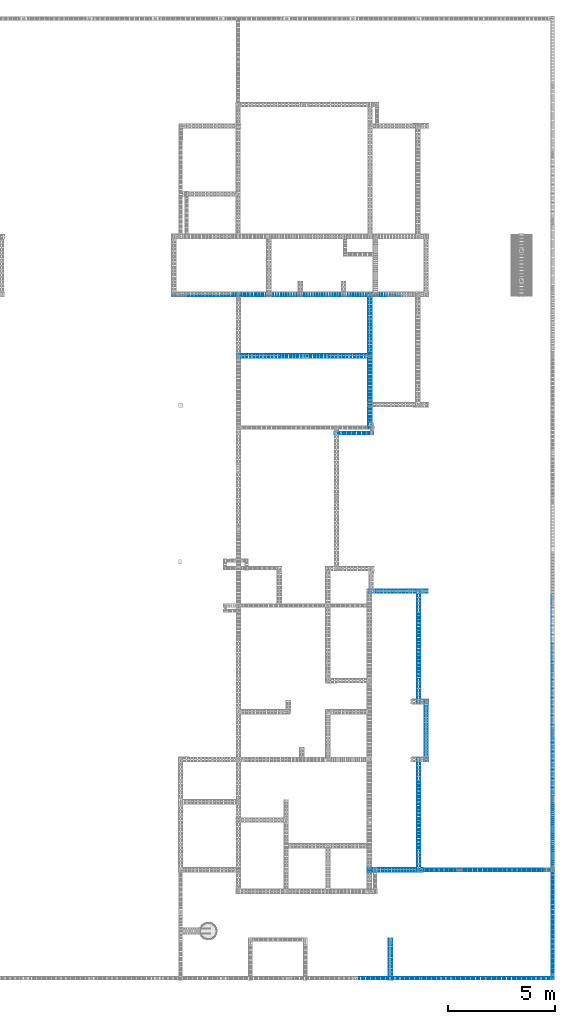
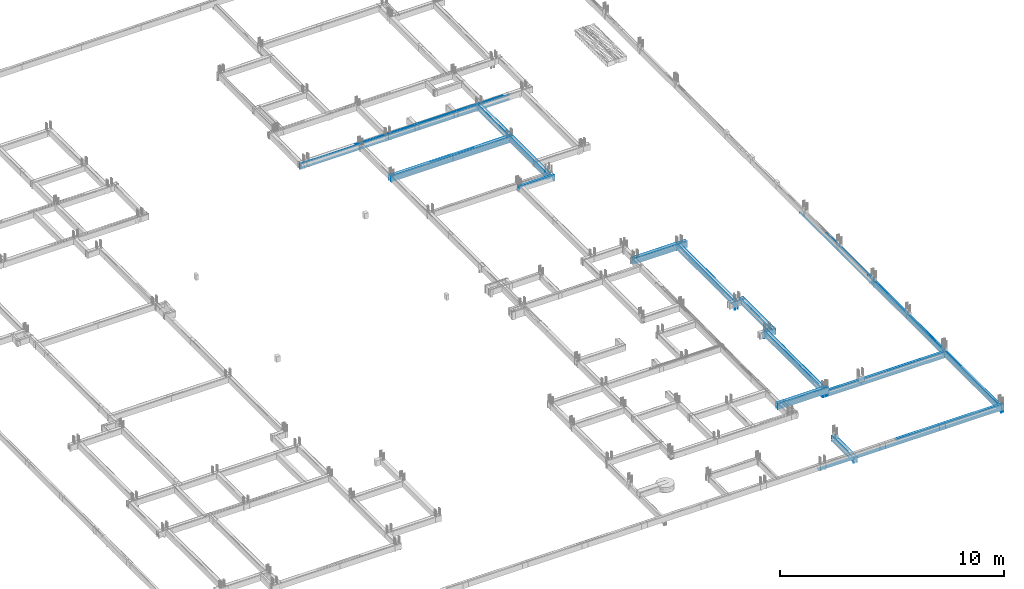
# One storey, part 12 of 150: 59 reinforcing bars.
"""IFC4 building model written with IfcOpenShell, lengths in centimetres."""

from ifc_helpers import new_model, entity, si_unit, derived_unit, frame, origin_with_axes, place, context, project, spatial, element, save


model = new_model("IFC4")

# Units and contexts
model_context = context("Model", 3, precision=1e-05, world=origin_with_axes(), identifier="Body")
ifc_project = project(units=[si_unit("LENGTHUNIT", "METRE", prefix="CENTI"), si_unit("VOLUMEUNIT", "CUBIC_METRE"), si_unit("AREAUNIT", "SQUARE_METRE"), si_unit("POWERUNIT", "WATT"), si_unit("LUMINOUSFLUXUNIT", "LUMEN"), si_unit("ELECTRICCURRENTUNIT", "AMPERE"), si_unit("PRESSUREUNIT", "PASCAL", prefix="KILO"), si_unit("MASSUNIT", "GRAM", prefix="KILO"), si_unit("PLANEANGLEUNIT", "RADIAN"), derived_unit("VOLUMETRICFLOWRATEUNIT", [(si_unit("LENGTHUNIT", "METRE"), 3), (si_unit("TIMEUNIT", "SECOND"), -1)])], contexts=[model_context])

# Site, building, storey
site_placement = place(None, frame((-4000.0, 0.0, 0.0), z_axis=(0.0, 0.0, 1.0), x_axis=(1.0, 0.0, 0.0)))
site = spatial("IfcSite", under=ifc_project, at=site_placement, Name="PADRÃO")
building_placement = place(site_placement, frame((0.0, 0.0, -14.0)))
building = spatial("IfcBuilding", under=site, at=building_placement, Name="CRECHE PRÉ-ESCOLA TIPO 2")
placement = place(building_placement, origin_with_axes())
storey_placement = place(placement, frame((0.0, 0.0, 30.0), z_axis=(0.0, 0.0, 1.0), x_axis=(1.0, 0.0, 0.0)))
storey = spatial("IfcBuildingStorey", under=building, at=storey_placement, Name="VIGA BALDRAME", CompositionType="ELEMENT", Elevation=16.0)

# Reinforcing bars
reinforcing_bar_1_placement = place(storey_placement, frame((2753.13707094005, 3193.145, -11.5851398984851), z_axis=(0.0, 0.0, 1.0), x_axis=(1.0, 0.0, 0.0)))
element("IfcReinforcingBar", 1, at=reinforcing_bar_1_placement, inside=storey, Name="V114 - Longitudinal inferior", BarLength=0.0, CrossSectionArea=0.000122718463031, NominalDiameter=1.25, PredefinedType="MAIN", context=model_context, shape_type="AdvancedSweptSolid", body=[
    entity("IfcSweptDiskSolid", entity("IfcCompositeCurve", [entity("IfcCompositeCurveSegment", "CONTINUOUS", True, entity("IfcPolyline", [entity("IfcCartesianPoint", [-535.982070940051, 0.0, 0.0]), entity("IfcCartesianPoint", [-535.982070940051, 0.0, -15.2898601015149])])), entity("IfcCompositeCurveSegment", "CONTINUOUS", True, entity("IfcPolyline", [entity("IfcCartesianPoint", [-535.982070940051, 0.0, -15.2898601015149]), entity("IfcCartesianPoint", [536.612930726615, 0.0, -15.2898601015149])]))], False), 0.625),
])
reinforcing_bar_2_placement = place(storey_placement, frame((2903.25, 3200.02, -26.25), z_axis=(0.0, 0.0, 1.0), x_axis=(1.0, 0.0, 0.0)))
element("IfcReinforcingBar", 2, at=reinforcing_bar_2_placement, inside=storey, Name="V114 - Longitudinal inferior", BarLength=0.0, CrossSectionArea=0.000122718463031, NominalDiameter=1.25, PredefinedType="MAIN", context=model_context, shape_type="AdvancedSweptSolid", body=[
    entity("IfcSweptDiskSolid", entity("IfcCompositeCurve", [entity("IfcCompositeCurveSegment", "CONTINUOUS", True, entity("IfcPolyline", [entity("IfcCartesianPoint", [-240.25, 0.0, -0.625]), entity("IfcCartesianPoint", [240.25, 0.0, -0.625])]))], False), 0.625),
])
for number, where, z_axis, x_axis, name in (
    (3, (2884.02, 3197.68666666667, -2.5), (0.0, 0.0, 1.0), (1.0, 0.0, 0.0), "V114 - Longitudinal superior"),
    (4, (2884.02, 3202.35333333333, -2.5), (0.0, 0.0, 1.0), (1.0, 0.0, 0.0), "V114 - Longitudinal superior"),
):
    element("IfcReinforcingBar", number, at=place(storey_placement, frame(where, z_axis=z_axis, x_axis=x_axis)), inside=storey, Name=name, BarLength=0.0, CrossSectionArea=7.853981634e-05, NominalDiameter=1.0, PredefinedType="MAIN", context=model_context, shape_type="AdvancedSweptSolid", body=[
        entity("IfcSweptDiskSolid", entity("IfcCompositeCurve", [entity("IfcCompositeCurveSegment", "CONTINUOUS", True, entity("IfcPolyline", [entity("IfcCartesianPoint", [-380.25, 0.0, -0.5]), entity("IfcCartesianPoint", [380.25, 0.0, -0.5])]))], False), 0.5),
    ])
reinforcing_bar_3_placement = place(storey_placement, frame((2753.13765691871, 3193.02, -2.49531217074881), z_axis=(0.0, 0.0, 1.0), x_axis=(1.0, 0.0, 0.0)))
element("IfcReinforcingBar", 5, at=reinforcing_bar_3_placement, inside=storey, Name="V114 - Longitudinal superior", BarLength=0.0, CrossSectionArea=7.853981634e-05, NominalDiameter=1.0, PredefinedType="MAIN", context=model_context, shape_type="AdvancedSweptSolid", body=[
    entity("IfcSweptDiskSolid", entity("IfcCompositeCurve", [entity("IfcCompositeCurveSegment", "CONTINUOUS", True, entity("IfcPolyline", [entity("IfcCartesianPoint", [-536.107656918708, 0.0, -26.5046878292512]), entity("IfcCartesianPoint", [-536.107656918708, 0.0, -0.504687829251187])])), entity("IfcCompositeCurveSegment", "CONTINUOUS", True, entity("IfcPolyline", [entity("IfcCartesianPoint", [-536.107656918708, 0.0, -0.504687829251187]), entity("IfcCartesianPoint", [536.612344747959, 0.0, -0.504687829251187])]))], False), 0.5),
])
for number, where, z_axis, x_axis, name in (
    (6, (2831.0, 2905.52, -26.5), (0.0, 0.0, 1.0), (1.0, 0.0, 0.0), "V116 - Longitudinal inferior"),
    (7, (2831.0, 2919.52, -26.5), (0.0, 0.0, 1.0), (1.0, 0.0, 0.0), "V116 - Longitudinal inferior"),
):
    element("IfcReinforcingBar", number, at=place(storey_placement, frame(where, z_axis=z_axis, x_axis=x_axis)), inside=storey, Name=name, BarLength=0.0, CrossSectionArea=7.853981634e-05, NominalDiameter=1.0, PredefinedType="MAIN", context=model_context, shape_type="AdvancedSweptSolid", body=[
        entity("IfcSweptDiskSolid", entity("IfcCompositeCurve", [entity("IfcCompositeCurveSegment", "CONTINUOUS", True, entity("IfcPolyline", [entity("IfcCartesianPoint", [-312.5, 0.0, -0.5]), entity("IfcCartesianPoint", [312.5, 0.0, -0.5])]))], False), 0.5),
    ])
for number, where, z_axis, x_axis, name in (
    (8, (2831.0, 2905.42, -2.49624973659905), (0.0, 0.0, 1.0), (1.0, 0.0, 0.0), "V116 - Longitudinal superior"),
    (9, (2831.0, 2919.62, -2.49624973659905), (0.0, 0.0, 1.0), (1.0, 0.0, 0.0), "V116 - Longitudinal superior"),
):
    element("IfcReinforcingBar", number, at=place(storey_placement, frame(where, z_axis=z_axis, x_axis=x_axis)), inside=storey, Name=name, BarLength=0.0, CrossSectionArea=5.0265482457e-05, NominalDiameter=0.8, PredefinedType="MAIN", context=model_context, shape_type="AdvancedSweptSolid", body=[
        entity("IfcSweptDiskSolid", entity("IfcCompositeCurve", [entity("IfcCompositeCurveSegment", "CONTINUOUS", True, entity("IfcPolyline", [entity("IfcCartesianPoint", [-312.1, 0.0, -24.2941566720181]), entity("IfcCartesianPoint", [-312.1, 0.0, -0.403750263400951])])), entity("IfcCompositeCurveSegment", "CONTINUOUS", True, entity("IfcPolyline", [entity("IfcCartesianPoint", [-312.1, 0.0, -0.403750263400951]), entity("IfcCartesianPoint", [312.1, 0.0, -0.403750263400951])])), entity("IfcCompositeCurveSegment", "CONTINUOUS", True, entity("IfcPolyline", [entity("IfcCartesianPoint", [312.1, 0.0, -0.403750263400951]), entity("IfcCartesianPoint", [312.1, 0.0, -10.403750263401])]))], False), 0.4),
    ])
reinforcing_bar_4_placement = place(storey_placement, frame((2834.0, 2912.52, -2.5), z_axis=(0.0, 0.0, 1.0), x_axis=(1.0, 0.0, 0.0)))
element("IfcReinforcingBar", 10, at=reinforcing_bar_4_placement, inside=storey, Name="V116 - Longitudinal superior", BarLength=0.0, CrossSectionArea=5.0265482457e-05, NominalDiameter=0.8, PredefinedType="MAIN", context=model_context, shape_type="AdvancedSweptSolid", body=[
    entity("IfcSweptDiskSolid", entity("IfcCompositeCurve", [entity("IfcCompositeCurveSegment", "CONTINUOUS", True, entity("IfcPolyline", [entity("IfcCartesianPoint", [-110.0, 0.0, -0.4]), entity("IfcCartesianPoint", [110.0, 0.0, -0.4])]))], False), 0.4),
])
for number, where, z_axis, x_axis, name in (
    (11, (3063.76, 2557.62, -2.49624973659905), (0.0, 0.0, 1.0), (1.0, 0.0, 0.0), "V123 - Longitudinal superior"),
    (12, (3063.76, 2549.42, -2.49624973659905), (0.0, 0.0, 1.0), (1.0, 0.0, 0.0), "V123 - Longitudinal superior"),
):
    element("IfcReinforcingBar", number, at=place(storey_placement, frame(where, z_axis=z_axis, x_axis=x_axis)), inside=storey, Name=name, BarLength=0.0, CrossSectionArea=5.0265482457e-05, NominalDiameter=0.8, PredefinedType="MAIN", context=model_context, shape_type="AdvancedSweptSolid", body=[
        entity("IfcSweptDiskSolid", entity("IfcCompositeCurve", [entity("IfcCompositeCurveSegment", "CONTINUOUS", True, entity("IfcPolyline", [entity("IfcCartesianPoint", [-88.86, 0.0, -10.403750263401]), entity("IfcCartesianPoint", [-88.86, 0.0, -0.403750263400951])])), entity("IfcCompositeCurveSegment", "CONTINUOUS", True, entity("IfcPolyline", [entity("IfcCartesianPoint", [-88.86, 0.0, -0.403750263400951]), entity("IfcCartesianPoint", [88.86, 0.0, -0.403750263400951])])), entity("IfcCompositeCurveSegment", "CONTINUOUS", True, entity("IfcPolyline", [entity("IfcCartesianPoint", [88.86, 0.0, -0.403750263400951]), entity("IfcCartesianPoint", [88.86, 0.0, -26.403750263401])]))], False), 0.4),
    ])
for number, where, z_axis, x_axis, name in (
    (13, (3271.0, 1822.12, -26.7), (0.0, 0.0, 1.0), (1.0, 0.0, 0.0), "V131 - Longitudinal inferior"),
    (14, (3271.0, 1807.92, -26.7), (0.0, 0.0, 1.0), (1.0, 0.0, 0.0), "V131 - Longitudinal inferior"),
):
    element("IfcReinforcingBar", number, at=place(storey_placement, frame(where, z_axis=z_axis, x_axis=x_axis)), inside=storey, Name=name, BarLength=0.0, CrossSectionArea=5.0265482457e-05, NominalDiameter=0.8, PredefinedType="MAIN", context=model_context, shape_type="AdvancedSweptSolid", body=[
        entity("IfcSweptDiskSolid", entity("IfcCompositeCurve", [entity("IfcCompositeCurveSegment", "CONTINUOUS", True, entity("IfcPolyline", [entity("IfcCartesianPoint", [-136.5, 0.0, -0.4]), entity("IfcCartesianPoint", [136.5, 0.0, -0.4])]))], False), 0.4),
    ])
for number, where, z_axis, x_axis, name in (
    (15, (3271.0, 1807.92, -2.49624973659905), (0.0, 0.0, 1.0), (1.0, 0.0, 0.0), "V131 - Longitudinal superior"),
    (16, (3271.0, 1822.12, -2.49624973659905), (0.0, 0.0, 1.0), (1.0, 0.0, 0.0), "V131 - Longitudinal superior"),
):
    element("IfcReinforcingBar", number, at=place(storey_placement, frame(where, z_axis=z_axis, x_axis=x_axis)), inside=storey, Name=name, BarLength=0.0, CrossSectionArea=5.0265482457e-05, NominalDiameter=0.8, PredefinedType="MAIN", context=model_context, shape_type="AdvancedSweptSolid", body=[
        entity("IfcSweptDiskSolid", entity("IfcCompositeCurve", [entity("IfcCompositeCurveSegment", "CONTINUOUS", True, entity("IfcPolyline", [entity("IfcCartesianPoint", [-136.1, 0.0, -10.403750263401]), entity("IfcCartesianPoint", [-136.1, 0.0, -0.403750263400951])])), entity("IfcCompositeCurveSegment", "CONTINUOUS", True, entity("IfcPolyline", [entity("IfcCartesianPoint", [-136.1, 0.0, -0.403750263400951]), entity("IfcCartesianPoint", [136.1, 0.0, -0.403750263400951])])), entity("IfcCompositeCurveSegment", "CONTINUOUS", True, entity("IfcPolyline", [entity("IfcCartesianPoint", [136.1, 0.0, -0.403750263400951]), entity("IfcCartesianPoint", [136.1, 0.0, -26.403750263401])]))], False), 0.4),
    ])
for number, where, z_axis, x_axis, name in (
    (17, (3256.75, 507.91, -26.7), (0.0, 0.0, 1.0), (1.0, 0.0, 0.0), "V152 - Longitudinal inferior"),
    (18, (3256.75, 522.11, -26.7), (0.0, 0.0, 1.0), (1.0, 0.0, 0.0), "V152 - Longitudinal inferior"),
):
    element("IfcReinforcingBar", number, at=place(storey_placement, frame(where, z_axis=z_axis, x_axis=x_axis)), inside=storey, Name=name, BarLength=0.0, CrossSectionArea=5.0265482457e-05, NominalDiameter=0.8, PredefinedType="MAIN", context=model_context, shape_type="AdvancedSweptSolid", body=[
        entity("IfcSweptDiskSolid", entity("IfcCompositeCurve", [entity("IfcCompositeCurveSegment", "CONTINUOUS", True, entity("IfcPolyline", [entity("IfcCartesianPoint", [-128.75, 0.0, -0.4]), entity("IfcCartesianPoint", [128.75, 0.0, -0.4])]))], False), 0.4),
    ])
for number, where, z_axis, x_axis, name in (
    (19, (3256.75, 508.135, -2.49414021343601), (0.0, 0.0, 1.0), (1.0, 0.0, 0.0), "V152 - Longitudinal superior"),
    (20, (3256.75, 521.885, -2.49414021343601), (0.0, 0.0, 1.0), (1.0, 0.0, 0.0), "V152 - Longitudinal superior"),
):
    element("IfcReinforcingBar", number, at=place(storey_placement, frame(where, z_axis=z_axis, x_axis=x_axis)), inside=storey, Name=name, BarLength=0.0, CrossSectionArea=0.000122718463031, NominalDiameter=1.25, PredefinedType="MAIN", context=model_context, shape_type="AdvancedSweptSolid", body=[
        entity("IfcSweptDiskSolid", entity("IfcCompositeCurve", [entity("IfcCompositeCurveSegment", "CONTINUOUS", True, entity("IfcPolyline", [entity("IfcCartesianPoint", [-128.125, 0.0, -26.630859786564]), entity("IfcCartesianPoint", [-128.125, 0.0, -0.630859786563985])])), entity("IfcCompositeCurveSegment", "CONTINUOUS", True, entity("IfcPolyline", [entity("IfcCartesianPoint", [-128.125, 0.0, -0.630859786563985]), entity("IfcCartesianPoint", [128.125, 0.0, -0.630859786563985])])), entity("IfcCompositeCurveSegment", "CONTINUOUS", True, entity("IfcPolyline", [entity("IfcCartesianPoint", [128.125, 0.0, -0.630859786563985]), entity("IfcCartesianPoint", [128.125, 0.0, -15.005859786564])]))], False), 0.625),
    ])
for number, where, z_axis, x_axis, name in (
    (21, (3678.75234391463, 510.51, -35.0), (0.0, 0.0, 1.0), (1.0, 0.0, 0.0), "V153 - Longitudinal inferior"),
    (22, (3678.75234391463, 519.51, -35.0), (0.0, 0.0, 1.0), (1.0, 0.0, 0.0), "V153 - Longitudinal inferior"),
):
    element("IfcReinforcingBar", number, at=place(storey_placement, frame(where, z_axis=z_axis, x_axis=x_axis)), inside=storey, Name=name, BarLength=0.0, CrossSectionArea=7.853981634e-05, NominalDiameter=1.0, PredefinedType="MAIN", context=model_context, shape_type="AdvancedSweptSolid", body=[
        entity("IfcSweptDiskSolid", entity("IfcCompositeCurve", [entity("IfcCompositeCurveSegment", "CONTINUOUS", True, entity("IfcPolyline", [entity("IfcCartesianPoint", [-319.252343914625, 0.0, -12.0]), entity("IfcCartesianPoint", [318.747656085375, 0.0, -12.0])])), entity("IfcCompositeCurveSegment", "CONTINUOUS", True, entity("IfcPolyline", [entity("IfcCartesianPoint", [318.747656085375, 0.0, -12.0]), entity("IfcCartesianPoint", [318.747656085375, 0.0, 0.0])]))], False), 0.5),
    ])
for number, where, z_axis, x_axis, name in (
    (23, (3678.75, 519.51, -22.4953121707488), (0.0, 0.0, 1.0), (1.0, 0.0, 0.0), "V153 - Longitudinal superior"),
    (24, (3678.75, 510.51, -22.4953121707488), (0.0, 0.0, 1.0), (1.0, 0.0, 0.0), "V153 - Longitudinal superior"),
):
    element("IfcReinforcingBar", number, at=place(storey_placement, frame(where, z_axis=z_axis, x_axis=x_axis)), inside=storey, Name=name, BarLength=0.0, CrossSectionArea=7.853981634e-05, NominalDiameter=1.0, PredefinedType="MAIN", context=model_context, shape_type="AdvancedSweptSolid", body=[
        entity("IfcSweptDiskSolid", entity("IfcCompositeCurve", [entity("IfcCompositeCurveSegment", "CONTINUOUS", True, entity("IfcPolyline", [entity("IfcCartesianPoint", [-318.75, 0.0, -10.5046878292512]), entity("IfcCartesianPoint", [-318.75, 0.0, -0.504687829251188])])), entity("IfcCompositeCurveSegment", "CONTINUOUS", True, entity("IfcPolyline", [entity("IfcCartesianPoint", [-318.75, 0.0, -0.504687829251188]), entity("IfcCartesianPoint", [318.75, 0.0, -0.504687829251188])])), entity("IfcCompositeCurveSegment", "CONTINUOUS", True, entity("IfcPolyline", [entity("IfcCartesianPoint", [318.75, 0.0, -0.504687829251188]), entity("IfcCartesianPoint", [318.75, 0.0, -30.3154683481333])]))], False), 0.5),
    ])
for number, where, z_axis, x_axis, name in (
    (25, (3221.0, 14.0, -26.5), (0.0, 0.0, 1.0), (1.0, 0.0, 0.0), "V158 - Longitudinal inferior"),
    (26, (3221.0, 5.0, -26.5), (0.0, 0.0, 1.0), (1.0, 0.0, 0.0), "V158 - Longitudinal inferior"),
):
    element("IfcReinforcingBar", number, at=place(storey_placement, frame(where, z_axis=z_axis, x_axis=x_axis)), inside=storey, Name=name, BarLength=0.0, CrossSectionArea=7.853981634e-05, NominalDiameter=1.0, PredefinedType="MAIN", context=model_context, shape_type="AdvancedSweptSolid", body=[
        entity("IfcSweptDiskSolid", entity("IfcCompositeCurve", [entity("IfcCompositeCurveSegment", "CONTINUOUS", True, entity("IfcPolyline", [entity("IfcCartesianPoint", [-171.857300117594, 0.0, -0.5]), entity("IfcCartesianPoint", [171.857300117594, 0.0, -0.5])]))], False), 0.5),
    ])
for number, where, z_axis, x_axis, name in (
    (27, (3679.90707995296, 14.1, -26.7), (0.0, 0.0, 1.0), (1.0, 0.0, 0.0), "V158 - Longitudinal inferior"),
    (28, (3679.90707995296, 4.9, -26.7), (0.0, 0.0, 1.0), (1.0, 0.0, 0.0), "V158 - Longitudinal inferior"),
):
    element("IfcReinforcingBar", number, at=place(storey_placement, frame(where, z_axis=z_axis, x_axis=x_axis)), inside=storey, Name=name, BarLength=0.0, CrossSectionArea=5.0265482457e-05, NominalDiameter=0.8, PredefinedType="MAIN", context=model_context, shape_type="AdvancedSweptSolid", body=[
        entity("IfcSweptDiskSolid", entity("IfcCompositeCurve", [entity("IfcCompositeCurveSegment", "CONTINUOUS", True, entity("IfcPolyline", [entity("IfcCartesianPoint", [-317.092920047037, 0.0, -0.4]), entity("IfcCartesianPoint", [317.092920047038, 0.0, -0.4])]))], False), 0.4),
    ])
for number, where, z_axis, x_axis, name in (
    (29, (3723.2518751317, 4.9, -2.49624973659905), (0.0, 0.0, 1.0), (1.0, 0.0, 0.0), "V158 - Longitudinal superior"),
    (30, (3723.2518751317, 14.1, -2.49624973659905), (0.0, 0.0, 1.0), (1.0, 0.0, 0.0), "V158 - Longitudinal superior"),
):
    element("IfcReinforcingBar", number, at=place(storey_placement, frame(where, z_axis=z_axis, x_axis=x_axis)), inside=storey, Name=name, BarLength=0.0, CrossSectionArea=5.0265482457e-05, NominalDiameter=0.8, PredefinedType="MAIN", context=model_context, shape_type="AdvancedSweptSolid", body=[
        entity("IfcSweptDiskSolid", entity("IfcCompositeCurve", [entity("IfcCompositeCurveSegment", "CONTINUOUS", True, entity("IfcPolyline", [entity("IfcCartesianPoint", [-273.751875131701, 0.0, -0.403750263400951]), entity("IfcCartesianPoint", [273.348124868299, 0.0, -0.403750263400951])])), entity("IfcCompositeCurveSegment", "CONTINUOUS", True, entity("IfcPolyline", [entity("IfcCartesianPoint", [273.348124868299, 0.0, -0.403750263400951]), entity("IfcCartesianPoint", [273.348124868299, 0.0, -18.3215550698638])]))], False), 0.4),
    ])
reinforcing_bar_5_placement = place(storey_placement, frame((3131.5, 2888.02, -26.5), z_axis=(0.0, 0.0, 1.0), x_axis=(1.0, 0.0, 0.0)))
element("IfcReinforcingBar", 31, at=reinforcing_bar_5_placement, inside=storey, Name="V219 - Longitudinal inferior", BarLength=0.0, CrossSectionArea=7.853981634e-05, NominalDiameter=1.0, PredefinedType="MAIN", context=model_context, shape_type="AdvancedSweptSolid", body=[
    entity("IfcSweptDiskSolid", entity("IfcCompositeCurve", [entity("IfcCompositeCurveSegment", "CONTINUOUS", True, entity("IfcPolyline", [entity("IfcCartesianPoint", [0.0, -314.5, -0.5]), entity("IfcCartesianPoint", [0.0, 314.5, -0.5])]))], False), 0.5),
])
reinforcing_bar_6_placement = place(storey_placement, frame((3138.5, 2749.52, -26.5), z_axis=(0.0, 0.0, 1.0), x_axis=(1.0, 0.0, 0.0)))
element("IfcReinforcingBar", 32, at=reinforcing_bar_6_placement, inside=storey, Name="V219 - Longitudinal inferior", BarLength=0.0, CrossSectionArea=7.853981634e-05, NominalDiameter=1.0, PredefinedType="MAIN", context=model_context, shape_type="AdvancedSweptSolid", body=[
    entity("IfcSweptDiskSolid", entity("IfcCompositeCurve", [entity("IfcCompositeCurveSegment", "CONTINUOUS", True, entity("IfcPolyline", [entity("IfcCartesianPoint", [0.0, -176.0, -0.5]), entity("IfcCartesianPoint", [0.0, 176.0, -0.5])]))], False), 0.5),
])
reinforcing_bar_7_placement = place(storey_placement, frame((3145.5, 2888.02, -26.5), z_axis=(0.0, 0.0, 1.0), x_axis=(1.0, 0.0, 0.0)))
element("IfcReinforcingBar", 33, at=reinforcing_bar_7_placement, inside=storey, Name="V219 - Longitudinal inferior", BarLength=0.0, CrossSectionArea=7.853981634e-05, NominalDiameter=1.0, PredefinedType="MAIN", context=model_context, shape_type="AdvancedSweptSolid", body=[
    entity("IfcSweptDiskSolid", entity("IfcCompositeCurve", [entity("IfcCompositeCurveSegment", "CONTINUOUS", True, entity("IfcPolyline", [entity("IfcCartesianPoint", [0.0, -314.5, -0.5]), entity("IfcCartesianPoint", [0.0, 314.5, -0.5])]))], False), 0.5),
])
for number, where, z_axis, x_axis, name in (
    (34, (3131.5, 2888.02, -2.49531217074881), (0.0, 0.0, 1.0), (1.0, 0.0, 0.0), "V219 - Longitudinal superior"),
    (35, (3145.5, 2888.02, -2.49531217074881), (0.0, 0.0, 1.0), (1.0, 0.0, 0.0), "V219 - Longitudinal superior"),
):
    element("IfcReinforcingBar", number, at=place(storey_placement, frame(where, z_axis=z_axis, x_axis=x_axis)), inside=storey, Name=name, BarLength=0.0, CrossSectionArea=7.853981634e-05, NominalDiameter=1.0, PredefinedType="MAIN", context=model_context, shape_type="AdvancedSweptSolid", body=[
        entity("IfcSweptDiskSolid", entity("IfcCompositeCurve", [entity("IfcCompositeCurveSegment", "CONTINUOUS", True, entity("IfcPolyline", [entity("IfcCartesianPoint", [0.0, -314.0, -12.0046878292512]), entity("IfcCartesianPoint", [0.0, -314.0, -0.504687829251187])])), entity("IfcCompositeCurveSegment", "CONTINUOUS", True, entity("IfcPolyline", [entity("IfcCartesianPoint", [0.0, -314.0, -0.504687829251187]), entity("IfcCartesianPoint", [0.0, 314.0, -0.504687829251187])])), entity("IfcCompositeCurveSegment", "CONTINUOUS", True, entity("IfcPolyline", [entity("IfcCartesianPoint", [0.0, 314.0, -0.504687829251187]), entity("IfcCartesianPoint", [0.0, 314.0, -19.6170129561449])]))], False), 0.5),
    ])
for number, where, z_axis, x_axis, name in (
    (36, (3241.09, 99.75, -46.7), (0.0, 0.0, 1.0), (1.0, 0.0, 0.0), "V223 - Longitudinal inferior"),
    (37, (3226.89, 99.75, -46.7), (0.0, 0.0, 1.0), (1.0, 0.0, 0.0), "V223 - Longitudinal inferior"),
):
    element("IfcReinforcingBar", number, at=place(storey_placement, frame(where, z_axis=z_axis, x_axis=x_axis)), inside=storey, Name=name, BarLength=0.0, CrossSectionArea=5.0265482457e-05, NominalDiameter=0.8, PredefinedType="MAIN", context=model_context, shape_type="AdvancedSweptSolid", body=[
        entity("IfcSweptDiskSolid", entity("IfcCompositeCurve", [entity("IfcCompositeCurveSegment", "CONTINUOUS", True, entity("IfcPolyline", [entity("IfcCartesianPoint", [0.0, -95.75, -0.4]), entity("IfcCartesianPoint", [0.0, 95.75, -0.4])]))], False), 0.4),
    ])
for number, where, z_axis, x_axis, name in (
    (38, (3241.09, 99.75, -22.496249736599), (0.0, 0.0, 1.0), (1.0, 0.0, 0.0), "V223 - Longitudinal superior"),
    (39, (3226.89, 99.75, -22.496249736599), (0.0, 0.0, 1.0), (1.0, 0.0, 0.0), "V223 - Longitudinal superior"),
):
    element("IfcReinforcingBar", number, at=place(storey_placement, frame(where, z_axis=z_axis, x_axis=x_axis)), inside=storey, Name=name, BarLength=0.0, CrossSectionArea=5.0265482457e-05, NominalDiameter=0.8, PredefinedType="MAIN", context=model_context, shape_type="AdvancedSweptSolid", body=[
        entity("IfcSweptDiskSolid", entity("IfcCompositeCurve", [entity("IfcCompositeCurveSegment", "CONTINUOUS", True, entity("IfcPolyline", [entity("IfcCartesianPoint", [0.0, -95.35, -26.403750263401]), entity("IfcCartesianPoint", [0.0, -95.35, -0.403750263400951])])), entity("IfcCompositeCurveSegment", "CONTINUOUS", True, entity("IfcPolyline", [entity("IfcCartesianPoint", [0.0, -95.35, -0.403750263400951]), entity("IfcCartesianPoint", [0.0, 95.35, -0.403750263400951])])), entity("IfcCompositeCurveSegment", "CONTINUOUS", True, entity("IfcPolyline", [entity("IfcCartesianPoint", [0.0, 95.35, -0.403750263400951]), entity("IfcCartesianPoint", [0.0, 95.35, -10.403750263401])]))], False), 0.4),
    ])
reinforcing_bar_8_placement = place(storey_placement, frame((3366.0, 767.545, -26.25), z_axis=(0.0, 0.0, 1.0), x_axis=(1.0, 0.0, 0.0)))
element("IfcReinforcingBar", 40, at=reinforcing_bar_8_placement, inside=storey, Name="V224 - Longitudinal inferior", BarLength=0.0, CrossSectionArea=0.000122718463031, NominalDiameter=1.25, PredefinedType="MAIN", context=model_context, shape_type="AdvancedSweptSolid", body=[
    entity("IfcSweptDiskSolid", entity("IfcCompositeCurve", [entity("IfcCompositeCurveSegment", "CONTINUOUS", True, entity("IfcPolyline", [entity("IfcCartesianPoint", [0.0, -157.535, -0.625]), entity("IfcCartesianPoint", [0.0, 157.535, -0.625])]))], False), 0.625),
])
for number, where, z_axis, x_axis, name in (
    (41, (3372.875, 773.295, -11.875), (0.0, 0.0, 1.0), (1.0, 0.0, 0.0), "V224 - Longitudinal inferior"),
    (42, (3359.125, 773.295, -11.875), (0.0, 0.0, 1.0), (1.0, 0.0, 0.0), "V224 - Longitudinal inferior"),
):
    element("IfcReinforcingBar", number, at=place(storey_placement, frame(where, z_axis=z_axis, x_axis=x_axis)), inside=storey, Name=name, BarLength=0.0, CrossSectionArea=0.000122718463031, NominalDiameter=1.25, PredefinedType="MAIN", context=model_context, shape_type="AdvancedSweptSolid", body=[
        entity("IfcSweptDiskSolid", entity("IfcCompositeCurve", [entity("IfcCompositeCurveSegment", "CONTINUOUS", True, entity("IfcPolyline", [entity("IfcCartesianPoint", [0.0, -262.66, 0.0]), entity("IfcCartesianPoint", [0.0, -262.66, -15.0])])), entity("IfcCompositeCurveSegment", "CONTINUOUS", True, entity("IfcPolyline", [entity("IfcCartesianPoint", [0.0, -262.66, -15.0]), entity("IfcCartesianPoint", [0.0, 262.66, -15.0])])), entity("IfcCompositeCurveSegment", "CONTINUOUS", True, entity("IfcPolyline", [entity("IfcCartesianPoint", [0.0, 262.66, -15.0]), entity("IfcCartesianPoint", [0.0, 262.66, 0.0])]))], False), 0.625),
    ])
for number, where, z_axis, x_axis, name in (
    (43, (3359.125, 773.295, -2.49414021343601), (0.0, 0.0, 1.0), (1.0, 0.0, 0.0), "V224 - Longitudinal superior"),
    (44, (3372.875, 773.295, -2.49414021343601), (0.0, 0.0, 1.0), (1.0, 0.0, 0.0), "V224 - Longitudinal superior"),
):
    element("IfcReinforcingBar", number, at=place(storey_placement, frame(where, z_axis=z_axis, x_axis=x_axis)), inside=storey, Name=name, BarLength=0.0, CrossSectionArea=0.000122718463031, NominalDiameter=1.25, PredefinedType="MAIN", context=model_context, shape_type="AdvancedSweptSolid", body=[
        entity("IfcSweptDiskSolid", entity("IfcCompositeCurve", [entity("IfcCompositeCurveSegment", "CONTINUOUS", True, entity("IfcPolyline", [entity("IfcCartesianPoint", [0.0, -262.66, -33.4356777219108]), entity("IfcCartesianPoint", [0.0, -262.66, -0.630859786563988])])), entity("IfcCompositeCurveSegment", "CONTINUOUS", True, entity("IfcPolyline", [entity("IfcCartesianPoint", [0.0, -262.66, -0.630859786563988]), entity("IfcCartesianPoint", [0.0, 262.66, -0.630859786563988])])), entity("IfcCompositeCurveSegment", "CONTINUOUS", True, entity("IfcPolyline", [entity("IfcCartesianPoint", [0.0, 262.66, -0.630859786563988]), entity("IfcCartesianPoint", [0.0, 262.66, -42.1994434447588])]))], False), 0.625),
    ])
for number, where, z_axis, x_axis, name in (
    (45, (3407.98, 1165.085, -26.5), (0.0, 0.0, 1.0), (1.0, 0.0, 0.0), "V225 - Longitudinal inferior"),
    (46, (3393.98, 1165.085, -26.5), (0.0, 0.0, 1.0), (1.0, 0.0, 0.0), "V225 - Longitudinal inferior"),
):
    element("IfcReinforcingBar", number, at=place(storey_placement, frame(where, z_axis=z_axis, x_axis=x_axis)), inside=storey, Name=name, BarLength=0.0, CrossSectionArea=7.853981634e-05, NominalDiameter=1.0, PredefinedType="MAIN", context=model_context, shape_type="AdvancedSweptSolid", body=[
        entity("IfcSweptDiskSolid", entity("IfcCompositeCurve", [entity("IfcCompositeCurveSegment", "CONTINUOUS", True, entity("IfcPolyline", [entity("IfcCartesianPoint", [0.0, -143.005, -0.5]), entity("IfcCartesianPoint", [0.0, 143.005, -0.5])]))], False), 0.5),
    ])
for number, where, z_axis, x_axis, name in (
    (47, (3408.08, 1165.085, -2.49624973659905), (0.0, 0.0, 1.0), (1.0, 0.0, 0.0), "V225 - Longitudinal superior"),
    (48, (3393.88, 1165.085, -2.49624973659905), (0.0, 0.0, 1.0), (1.0, 0.0, 0.0), "V225 - Longitudinal superior"),
):
    element("IfcReinforcingBar", number, at=place(storey_placement, frame(where, z_axis=z_axis, x_axis=x_axis)), inside=storey, Name=name, BarLength=0.0, CrossSectionArea=5.0265482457e-05, NominalDiameter=0.8, PredefinedType="MAIN", context=model_context, shape_type="AdvancedSweptSolid", body=[
        entity("IfcSweptDiskSolid", entity("IfcCompositeCurve", [entity("IfcCompositeCurveSegment", "CONTINUOUS", True, entity("IfcPolyline", [entity("IfcCartesianPoint", [0.0, -142.605, -26.403750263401]), entity("IfcCartesianPoint", [0.0, -142.605, -0.403750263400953])])), entity("IfcCompositeCurveSegment", "CONTINUOUS", True, entity("IfcPolyline", [entity("IfcCartesianPoint", [0.0, -142.605, -0.403750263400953]), entity("IfcCartesianPoint", [0.0, 142.605, -0.403750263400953])])), entity("IfcCompositeCurveSegment", "CONTINUOUS", True, entity("IfcPolyline", [entity("IfcCartesianPoint", [0.0, 142.605, -0.403750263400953]), entity("IfcCartesianPoint", [0.0, 142.605, -24.2941566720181])]))], False), 0.4),
    ])
reinforcing_bar_9_placement = place(storey_placement, frame((3366.0, 1562.555, -26.25), z_axis=(0.0, 0.0, 1.0), x_axis=(1.0, 0.0, 0.0)))
element("IfcReinforcingBar", 49, at=reinforcing_bar_9_placement, inside=storey, Name="V226 - Longitudinal inferior", BarLength=0.0, CrossSectionArea=0.000122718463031, NominalDiameter=1.25, PredefinedType="MAIN", context=model_context, shape_type="AdvancedSweptSolid", body=[
    entity("IfcSweptDiskSolid", entity("IfcCompositeCurve", [entity("IfcCompositeCurveSegment", "CONTINUOUS", True, entity("IfcPolyline", [entity("IfcCartesianPoint", [0.0, -152.465, -0.625]), entity("IfcCartesianPoint", [0.0, 152.465, -0.625])]))], False), 0.625),
])
for number, where, z_axis, x_axis, name in (
    (50, (3359.125, 1557.555, -11.875), (0.0, 0.0, 1.0), (1.0, 0.0, 0.0), "V226 - Longitudinal inferior"),
    (51, (3372.875, 1557.555, -11.875), (0.0, 0.0, 1.0), (1.0, 0.0, 0.0), "V226 - Longitudinal inferior"),
):
    element("IfcReinforcingBar", number, at=place(storey_placement, frame(where, z_axis=z_axis, x_axis=x_axis)), inside=storey, Name=name, BarLength=0.0, CrossSectionArea=0.000122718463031, NominalDiameter=1.25, PredefinedType="MAIN", context=model_context, shape_type="AdvancedSweptSolid", body=[
        entity("IfcSweptDiskSolid", entity("IfcCompositeCurve", [entity("IfcCompositeCurveSegment", "CONTINUOUS", True, entity("IfcPolyline", [entity("IfcCartesianPoint", [0.0, -263.34, 0.0]), entity("IfcCartesianPoint", [0.0, -263.34, -15.0])])), entity("IfcCompositeCurveSegment", "CONTINUOUS", True, entity("IfcPolyline", [entity("IfcCartesianPoint", [0.0, -263.34, -15.0]), entity("IfcCartesianPoint", [0.0, 263.34, -15.0])])), entity("IfcCompositeCurveSegment", "CONTINUOUS", True, entity("IfcPolyline", [entity("IfcCartesianPoint", [0.0, 263.34, -15.0]), entity("IfcCartesianPoint", [0.0, 263.34, 0.0])]))], False), 0.625),
    ])
for number, where, z_axis, x_axis, name in (
    (52, (3372.875, 1557.555, -2.49414021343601), (0.0, 0.0, 1.0), (1.0, 0.0, 0.0), "V226 - Longitudinal superior"),
    (53, (3359.125, 1557.555, -2.49414021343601), (0.0, 0.0, 1.0), (1.0, 0.0, 0.0), "V226 - Longitudinal superior"),
):
    element("IfcReinforcingBar", number, at=place(storey_placement, frame(where, z_axis=z_axis, x_axis=x_axis)), inside=storey, Name=name, BarLength=0.0, CrossSectionArea=0.000122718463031, NominalDiameter=1.25, PredefinedType="MAIN", context=model_context, shape_type="AdvancedSweptSolid", body=[
        entity("IfcSweptDiskSolid", entity("IfcCompositeCurve", [entity("IfcCompositeCurveSegment", "CONTINUOUS", True, entity("IfcPolyline", [entity("IfcCartesianPoint", [0.0, -263.34, -42.3274849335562]), entity("IfcCartesianPoint", [0.0, -263.34, -0.630859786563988])])), entity("IfcCompositeCurveSegment", "CONTINUOUS", True, entity("IfcPolyline", [entity("IfcCartesianPoint", [0.0, -263.34, -0.630859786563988]), entity("IfcCartesianPoint", [0.0, 263.34, -0.630859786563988])])), entity("IfcCompositeCurveSegment", "CONTINUOUS", True, entity("IfcPolyline", [entity("IfcCartesianPoint", [0.0, 263.34, -0.630859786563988]), entity("IfcCartesianPoint", [0.0, 263.34, -36.8138724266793])]))], False), 0.625),
    ])
for number, where, z_axis, x_axis, name in (
    (54, (3987.0, 587.233650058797, -41.5), (0.0, 0.0, 1.0), (1.0, 0.0, 0.0), "V230 - Longitudinal inferior"),
    (55, (3996.0, 587.233650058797, -41.5), (0.0, 0.0, 1.0), (1.0, 0.0, 0.0), "V230 - Longitudinal inferior"),
):
    element("IfcReinforcingBar", number, at=place(storey_placement, frame(where, z_axis=z_axis, x_axis=x_axis)), inside=storey, Name=name, BarLength=0.0, CrossSectionArea=7.853981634e-05, NominalDiameter=1.0, PredefinedType="MAIN", context=model_context, shape_type="AdvancedSweptSolid", body=[
        entity("IfcSweptDiskSolid", entity("IfcCompositeCurve", [entity("IfcCompositeCurveSegment", "CONTINUOUS", True, entity("IfcPolyline", [entity("IfcCartesianPoint", [0.0, -583.233650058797, -0.5]), entity("IfcCartesianPoint", [0.0, 583.233650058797, -0.5])]))], False), 0.5),
    ])
reinforcing_bar_10_placement = place(storey_placement, frame((3987.0, 1465.61, -41.5), z_axis=(0.0, 0.0, 1.0), x_axis=(1.0, 0.0, 0.0)))
element("IfcReinforcingBar", 56, at=reinforcing_bar_10_placement, inside=storey, Name="V230 - Longitudinal inferior", BarLength=0.0, CrossSectionArea=7.853981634e-05, NominalDiameter=1.0, PredefinedType="MAIN", context=model_context, shape_type="AdvancedSweptSolid", body=[
    entity("IfcSweptDiskSolid", entity("IfcCompositeCurve", [entity("IfcCompositeCurveSegment", "CONTINUOUS", True, entity("IfcPolyline", [entity("IfcCartesianPoint", [0.0, -331.857300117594, -0.5]), entity("IfcCartesianPoint", [0.0, 331.857300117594, -0.5])]))], False), 0.5),
])
for number, where, z_axis, x_axis, name in (
    (57, (3996.0, 598.997656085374, -17.4953121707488), (0.0, 0.0, 1.0), (1.0, 0.0, 0.0), "V230 - Longitudinal superior"),
    (58, (3987.0, 598.997656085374, -17.4953121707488), (0.0, 0.0, 1.0), (1.0, 0.0, 0.0), "V230 - Longitudinal superior"),
):
    element("IfcReinforcingBar", number, at=place(storey_placement, frame(where, z_axis=z_axis, x_axis=x_axis)), inside=storey, Name=name, BarLength=0.0, CrossSectionArea=7.853981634e-05, NominalDiameter=1.0, PredefinedType="MAIN", context=model_context, shape_type="AdvancedSweptSolid", body=[
        entity("IfcSweptDiskSolid", entity("IfcCompositeCurve", [entity("IfcCompositeCurveSegment", "CONTINUOUS", True, entity("IfcPolyline", [entity("IfcCartesianPoint", [0.0, -594.497656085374, -10.5046878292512]), entity("IfcCartesianPoint", [0.0, -594.497656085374, -0.504687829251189])])), entity("IfcCompositeCurveSegment", "CONTINUOUS", True, entity("IfcPolyline", [entity("IfcCartesianPoint", [0.0, -594.497656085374, -0.504687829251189]), entity("IfcCartesianPoint", [0.0, 595.002343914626, -0.504687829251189])]))], False), 0.5),
    ])
reinforcing_bar_11_placement = place(storey_placement, frame((3991.5, 972.51, -17.5), z_axis=(0.0, 0.0, 1.0), x_axis=(1.0, 0.0, 0.0)))
element("IfcReinforcingBar", 59, at=reinforcing_bar_11_placement, inside=storey, Name="V230 - Longitudinal superior", BarLength=0.0, CrossSectionArea=7.853981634e-05, NominalDiameter=1.0, PredefinedType="MAIN", context=model_context, shape_type="AdvancedSweptSolid", body=[
    entity("IfcSweptDiskSolid", entity("IfcCompositeCurve", [entity("IfcCompositeCurveSegment", "CONTINUOUS", True, entity("IfcPolyline", [entity("IfcCartesianPoint", [0.0, -600.0, -0.5]), entity("IfcCartesianPoint", [0.0, 600.0, -0.5])]))], False), 0.5),
])

save(model, "model.ifc")
